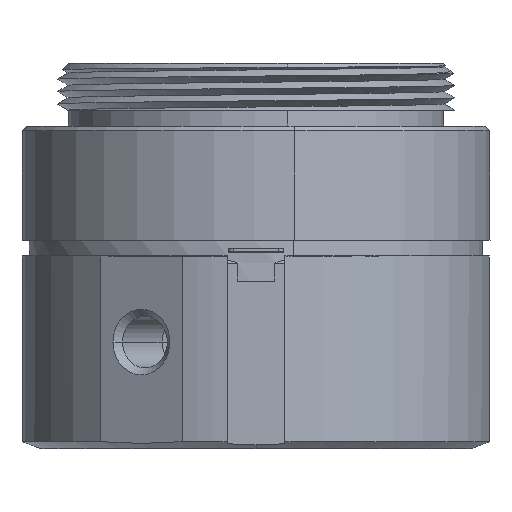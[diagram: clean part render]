
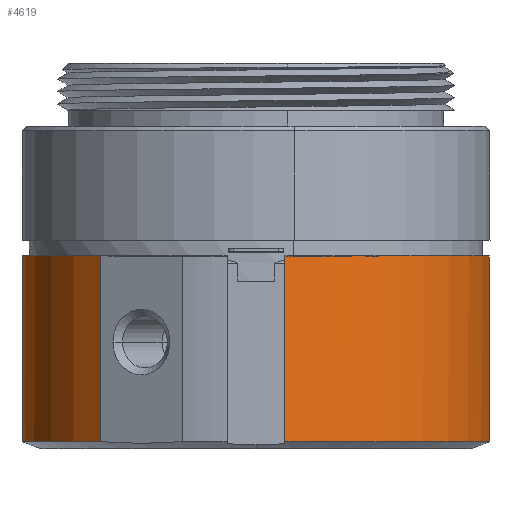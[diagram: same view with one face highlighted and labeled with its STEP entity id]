
A CAD part, left-side view. The second image highlights one B-rep face of the part: STEP entity #4619.
In plain terms, the highlighted cylindrical face has radius 14.95 mm (diameter 29.9 mm), a partial arc.
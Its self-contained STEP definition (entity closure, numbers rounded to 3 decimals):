
#91 = CIRCLE ( 'NONE', #3687, 14.95 ) ;
#115 = EDGE_CURVE ( 'NONE', #10859, #8887, #91, .T. ) ;
#1229 = DIRECTION ( 'NONE',  ( 0., 0., -1. ) ) ;
#1384 = CIRCLE ( 'NONE', #4374, 14.95 ) ;
#1440 = EDGE_CURVE ( 'NONE', #5559, #8887, #9524, .T. ) ;
#1588 = DIRECTION ( 'NONE',  ( 1., 0., 0. ) ) ;
#1808 = CARTESIAN_POINT ( 'NONE',  ( -14.835, -1.85, -7.25 ) ) ;
#1873 = VECTOR ( 'NONE', #6448, 1000. ) ;
#2541 = CARTESIAN_POINT ( 'NONE',  ( -11.184, 9.921, -19.113 ) ) ;
#2552 = CARTESIAN_POINT ( 'NONE',  ( -11.184, 9.921, -7.25 ) ) ;
#2868 = CYLINDRICAL_SURFACE ( 'NONE', #4844, 14.95 ) ;
#3046 = ORIENTED_EDGE ( 'NONE', *, *, #1440, .F. ) ;
#3148 = DIRECTION ( 'NONE',  ( 0., 0., -1. ) ) ;
#3338 = EDGE_LOOP ( 'NONE', ( #6222, #4685, #4569, #3046, #10396 ) ) ;
#3687 = AXIS2_PLACEMENT_3D ( 'NONE', #7294, #3148, #12429 ) ;
#3697 = CARTESIAN_POINT ( 'NONE',  ( 0., 0., -19.113 ) ) ;
#4374 = AXIS2_PLACEMENT_3D ( 'NONE', #12527, #1229, #8470 ) ;
#4569 = ORIENTED_EDGE ( 'NONE', *, *, #115, .T. ) ;
#4598 = VERTEX_POINT ( 'NONE', #2541 ) ;
#4619 = ADVANCED_FACE ( 'NONE', ( #10881 ), #2868, .T. ) ;
#4685 = ORIENTED_EDGE ( 'NONE', *, *, #12570, .F. ) ;
#4714 = VECTOR ( 'NONE', #12242, 1000. ) ;
#4844 = AXIS2_PLACEMENT_3D ( 'NONE', #3697, #12854, #1588 ) ;
#5272 = LINE ( 'NONE', #11504, #1873 ) ;
#5436 = CARTESIAN_POINT ( 'NONE',  ( -14.835, -1.85, -19.113 ) ) ;
#5559 = VERTEX_POINT ( 'NONE', #5436 ) ;
#5996 = AXIS2_PLACEMENT_3D ( 'NONE', #6234, #10334, #8348 ) ;
#6222 = ORIENTED_EDGE ( 'NONE', *, *, #6925, .F. ) ;
#6234 = CARTESIAN_POINT ( 'NONE',  ( 0., 0., -19.113 ) ) ;
#6298 = CIRCLE ( 'NONE', #5996, 14.95 ) ;
#6448 = DIRECTION ( 'NONE',  ( 0., 0., -1. ) ) ;
#6925 = EDGE_CURVE ( 'NONE', #4598, #12279, #6298, .T. ) ;
#7294 = CARTESIAN_POINT ( 'NONE',  ( 0., 0., -7.25 ) ) ;
#8348 = DIRECTION ( 'NONE',  ( -1., 0., 0. ) ) ;
#8470 = DIRECTION ( 'NONE',  ( -1., 0., 0. ) ) ;
#8670 = EDGE_CURVE ( 'NONE', #12279, #5559, #1384, .T. ) ;
#8887 = VERTEX_POINT ( 'NONE', #1808 ) ;
#8939 = CARTESIAN_POINT ( 'NONE',  ( 14.95, 0., -19.113 ) ) ;
#9524 = LINE ( 'NONE', #12612, #4714 ) ;
#10334 = DIRECTION ( 'NONE',  ( 0., 0., -1. ) ) ;
#10396 = ORIENTED_EDGE ( 'NONE', *, *, #8670, .F. ) ;
#10859 = VERTEX_POINT ( 'NONE', #2552 ) ;
#10881 = FACE_OUTER_BOUND ( 'NONE', #3338, .T. ) ;
#11504 = CARTESIAN_POINT ( 'NONE',  ( -11.184, 9.921, -13.182 ) ) ;
#12242 = DIRECTION ( 'NONE',  ( 0., 0., 1. ) ) ;
#12279 = VERTEX_POINT ( 'NONE', #8939 ) ;
#12429 = DIRECTION ( 'NONE',  ( 1., 0., 0. ) ) ;
#12527 = CARTESIAN_POINT ( 'NONE',  ( 0., 0., -19.113 ) ) ;
#12570 = EDGE_CURVE ( 'NONE', #10859, #4598, #5272, .T. ) ;
#12612 = CARTESIAN_POINT ( 'NONE',  ( -14.835, -1.85, -13.182 ) ) ;
#12854 = DIRECTION ( 'NONE',  ( 0., 0., 1. ) ) ;
